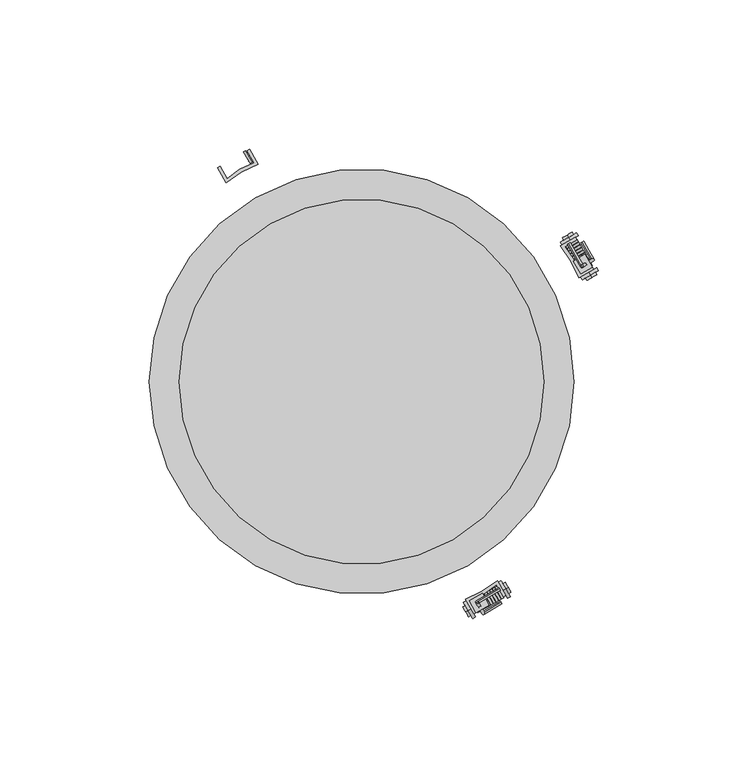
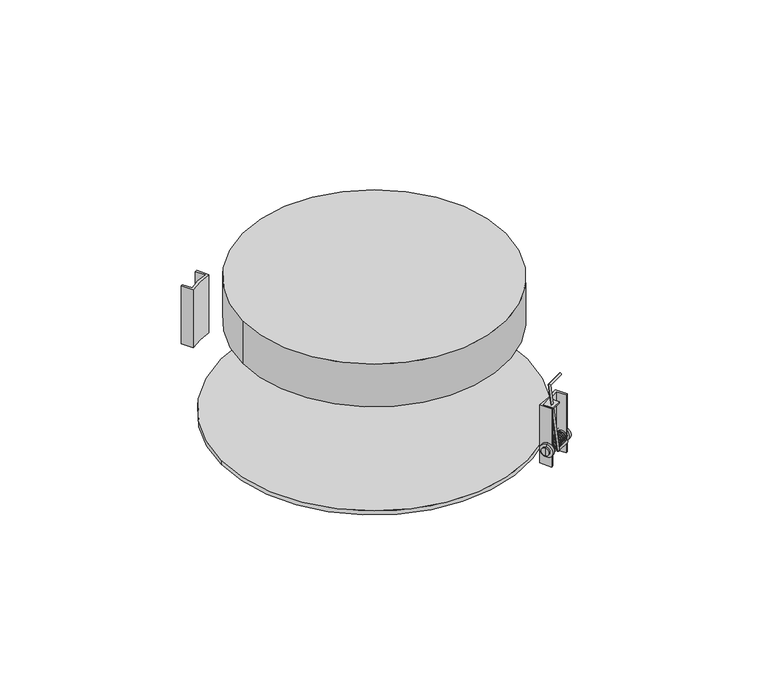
"""IFC4 building model written with IfcOpenShell, lengths in millimetres: proxy geometry, 230208 BIM Data_CSE 56T VA : CSE 56T VA."""

from ifc_helpers import new_model, si_unit, point, frame, frame_2d, origin, origin_2d, place, context, project, spatial, polyline, circle_curve, ellipse_curve, trimmed, segment, composite_curve, outline, extrude, source, transform, mapped, element, save
from ifc_brep_helpers import plane_surface, cylinder_surface, advanced_brep


def communication_devices_ea9a3868(model_context):
    return source(origin(), model_context, "Body", "SolidModel", [
        extrude(outline(composite_curve([segment(trimmed(circle_curve(frame_2d((0.0, -2.2114931)), 2.2114931), [point((0.0, -4.4229861))], [point((0.0, 0.0))], False, "CARTESIAN"), True, "CONTINUOUS"), segment(trimmed(circle_curve(frame_2d((0.0, -2.2114931)), 2.2114931), [point((0.0, 0.0))], [point((0.0, -4.4229861))], False, "CARTESIAN"), True, "CONTINUOUS")], self_intersect=False), holes=[composite_curve([segment(trimmed(circle_curve(frame_2d((0.0, -2.2114931)), 1.6197878), [point((0.0, -3.8312809))], [point((0.0, -0.5917053))], True, "CARTESIAN"), True, "CONTINUOUS"), segment(trimmed(circle_curve(frame_2d((0.0, -2.2114931)), 1.6197878), [point((0.0, -0.5917053))], [point((0.0, -3.8312809))], True, "CARTESIAN"), True, "CONTINUOUS")], self_intersect=False)]), frame((-37.3178935, 73.0329168, 13.8879558), z_axis=(0.866025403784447, 0.4999999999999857, 0.0), x_axis=(0.0, 0.0, 1.0)), (0.0, 0.0, 1.0), 0.7554192),
        extrude(outline(composite_curve([segment(trimmed(circle_curve(frame_2d((0.0, -2.2114931)), 2.2114931), [point((0.0, -4.4229861))], [point((0.0, 0.0))], False, "CARTESIAN"), True, "CONTINUOUS"), segment(trimmed(circle_curve(frame_2d((0.0, -2.2114931)), 2.2114931), [point((0.0, 0.0))], [point((0.0, -4.4229861))], False, "CARTESIAN"), True, "CONTINUOUS")], self_intersect=False), holes=[composite_curve([segment(trimmed(circle_curve(frame_2d((0.0, -2.2114931)), 1.6197878), [point((0.0, -3.8312809))], [point((0.0, -0.5917053))], True, "CARTESIAN"), True, "CONTINUOUS"), segment(trimmed(circle_curve(frame_2d((0.0, -2.2114931)), 1.6197878), [point((0.0, -0.5917053))], [point((0.0, -3.8312809))], True, "CARTESIAN"), True, "CONTINUOUS")], self_intersect=False)]), frame((-37.3178935, 73.0329168, 13.8879558), z_axis=(0.866025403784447, 0.4999999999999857, 0.0), x_axis=(0.0, 0.0, 1.0)), (0.0, 0.0, 1.0), 0.7554192),
        extrude(outline(composite_curve([segment(trimmed(circle_curve(frame_2d((-19.0625, 33.28125)), 42.496521), [point((-34.7465932, 72.7776235))], [point((-45.4253162, 66.6122599))], True, "CARTESIAN"), True, "CONTINUOUS"), segment(polyline([(-45.4253162, 66.6122599), (-48.2690092, 71.5376808), (-47.4415997, 72.0153859), (-45.1088342, 67.9749175)]), True, "CONTINUOUS"), segment(trimmed(circle_curve(frame_2d((-27.9989402, 48.7128243)), 25.7638644), [point((-45.1088342, 67.9749175))], [point((-35.9830153, 73.2083596))], False, "CARTESIAN"), True, "CONTINUOUS"), segment(polyline([(-35.9830153, 73.2083596), (-38.3310886, 77.2753419), (-37.5902863, 77.7030443), (-34.7465932, 72.7776235)]), True, "CONTINUOUS")], self_intersect=False)), frame((0.0, 0.0, 5.7345004), z_axis=(0.0, 0.0, 1.0), x_axis=(1.0, 0.0, 0.0)), (0.0, 0.0, 1.0), 28.5085083),
        extrude(outline(polyline([(42.6612156, -74.7753419), (38.3310886, -77.2753419), (36.0486014, -73.3219581), (40.3787284, -70.8219581), (42.6612156, -74.7753419)])), frame((0.0, 0.0, 33.4827769), z_axis=(0.0, 0.0, 1.0), x_axis=(1.0, 0.0, 0.0)), (0.0, 0.0, 1.0), 0.7602318),
        advanced_brep(
        [(46.1831034, -69.3327417, 43.8165144), (46.2510379, -69.4504076, 42.8257876), (39.1318727, -73.5606596, 42.8257876), (38.1979129, -73.9429936, 43.8165144), (40.3487085, -77.6682809, 12.4502375), (41.1467994, -77.050615, 13.4409643), (46.7434081, -73.9762993, 12.4502375), (46.6754737, -73.8586334, 13.4409643)],
        [
            (0, 1, circle_curve(frame((46.2170707, -69.3915747, 43.321151), z_axis=(0.866025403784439, 0.49999999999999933, 0.0), x_axis=(0.06793445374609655, -0.1176659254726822, -0.9907268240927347)), 0.5)),
            (1, 0, circle_curve(frame((46.2170707, -69.3915747, 43.321151), z_axis=(0.866025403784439, 0.49999999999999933, 0.0), x_axis=(0.06793445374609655, -0.1176659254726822, -0.9907268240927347)), 0.5)),
            (2, 3, ellipse_curve(frame((38.6648928, -73.7518266, 43.321151), z_axis=(-0.5643355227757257, -0.4367557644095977, -0.7005496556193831), x_axis=(-0.6604093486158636, -0.2703510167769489, 0.7005496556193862)), 0.7071068, 0.5)),
            (3, 4),
            (4, 5, ellipse_curve(frame((40.747754, -77.3594479, 12.9456009), z_axis=(-0.6604093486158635, -0.2703510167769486, 0.7005496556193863), x_axis=(0.5643355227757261, 0.4367557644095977, 0.7005496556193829)), 0.7071068, 0.5)),
            (5, 2),
            (3, 2, ellipse_curve(frame((38.6648928, -73.7518266, 43.321151), z_axis=(-0.5643355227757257, -0.4367557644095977, -0.7005496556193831), x_axis=(-0.6604093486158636, -0.2703510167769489, 0.7005496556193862)), 0.7071068, 0.5)),
            (5, 4, ellipse_curve(frame((40.747754, -77.3594479, 12.9456009), z_axis=(-0.6604093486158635, -0.2703510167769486, 0.7005496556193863), x_axis=(0.5643355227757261, 0.4367557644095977, 0.7005496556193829)), 0.7071068, 0.5)),
            (6, 7, circle_curve(frame((46.7094409, -73.9174664, 12.9456009), z_axis=(0.8660254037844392, 0.49999999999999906, 0.0), x_axis=(-0.06793445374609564, 0.11766592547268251, 0.9907268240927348)), 0.5)),
            (7, 6, circle_curve(frame((46.7094409, -73.9174664, 12.9456009), z_axis=(0.8660254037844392, 0.49999999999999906, 0.0), x_axis=(-0.06793445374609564, 0.11766592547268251, 0.9907268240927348)), 0.5)),
            (4, 6),
            (7, 5),
            (0, 3),
            (2, 1),
        ],
        [
            plane_surface(frame((23.9773656, -30.8712757, 36.0923621), z_axis=(0.8660254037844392, 0.4999999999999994, 0.0), x_axis=(0.4953634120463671, -0.8579945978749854, 0.13586890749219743))),
            cylinder_surface(frame((38.7408698, -73.8834225, 42.2131358), z_axis=(-0.06793445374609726, 0.11766592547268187, 0.9907268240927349), x_axis=(0.8660254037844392, 0.49999999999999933, 0.0)), 0.5),
            plane_surface(frame((24.317782, -35.1339754, 7.9328424), z_axis=(0.8660254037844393, 0.4999999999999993, 0.0), x_axis=(0.4953634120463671, -0.8579945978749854, 0.1358689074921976))),
            cylinder_surface(frame((41.7163048, -76.8002548, 12.9456009), z_axis=(-0.8660254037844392, -0.49999999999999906, 0.0), x_axis=(-0.06793445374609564, 0.11766592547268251, 0.9907268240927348)), 0.5),
            cylinder_surface(frame((46.2170707, -69.3915747, 43.321151), z_axis=(0.866025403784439, 0.49999999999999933, 0.0), x_axis=(0.06793445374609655, -0.1176659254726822, -0.9907268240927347)), 0.5),
        ],
        [
            (0, [[1, 2]]),
            (1, [[3, 4, 5, 6]]),
            (1, [[7, -6, 8, -4]]),
            (2, [[9, 10]]),
            (3, [[-5, 11, -10, 12]]),
            (3, [[-8, -12, -9, -11]]),
            (4, [[-1, 13, -3, 14]]),
            (4, [[-2, -14, -7, -13]]),
        ],
    ),
        advanced_brep(
        [(35.6613388, -76.56154, 10.6517111), (35.6613388, -76.56154, 16.869995), (36.6137635, -76.0116573, 16.869995), (36.6137635, -76.0116573, 10.6517111), (35.6613388, -76.56154, 11.8431266), (35.6613388, -76.56154, 15.6785795), (34.8423143, -77.034404, 11.8431266), (34.8423143, -77.034404, 15.6785795), (34.8423143, -77.034404, 13.760853), (49.0639357, -68.823547, 11.8431266), (49.0639357, -68.823547, 15.6785795), (49.0639357, -68.823547, 13.760853), (48.2449112, -69.2964111, 11.8431266), (48.2449112, -69.2964111, 15.6785795), (48.2449112, -69.2964111, 10.6517111), (48.2449112, -69.2964111, 16.869995), (47.2924865, -69.8462937, 10.6517111), (47.2924865, -69.8462937, 16.869995), (47.2924865, -69.8462937, 12.8676654), (47.2924865, -69.8462937, 14.6540407), (36.6137635, -76.0116573, 12.8676654), (36.6137635, -76.0116573, 14.6540407)],
        [
            (0, 1, circle_curve(frame((35.6613388, -76.56154, 13.760853), z_axis=(0.866025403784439, 0.4999999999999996, 0.0), x_axis=(0.0, 0.0, 1.0000000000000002)), 3.109142)),
            (1, 2),
            (2, 3, circle_curve(frame((36.6137635, -76.0116573, 13.760853), z_axis=(-0.866025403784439, -0.4999999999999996, 0.0), x_axis=(0.0, 0.0, 1.0000000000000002)), 3.109142)),
            (3, 0),
            (1, 0, circle_curve(frame((35.6613388, -76.56154, 13.760853), z_axis=(0.866025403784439, 0.4999999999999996, 0.0), x_axis=(0.0, 0.0, 1.0000000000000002)), 3.109142)),
            (3, 2, circle_curve(frame((36.6137635, -76.0116573, 13.760853), z_axis=(-0.866025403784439, -0.4999999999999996, 0.0), x_axis=(0.0, 0.0, 1.0000000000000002)), 3.109142)),
            (4, 5, circle_curve(frame((35.6613388, -76.56154, 13.760853), z_axis=(0.866025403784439, 0.4999999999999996, 0.0), x_axis=(0.0, 0.0, 1.0000000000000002)), 1.9177265)),
            (5, 1),
            (0, 4),
            (5, 4, circle_curve(frame((35.6613388, -76.56154, 13.760853), z_axis=(0.866025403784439, 0.4999999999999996, 0.0), x_axis=(0.0, 0.0, 1.0000000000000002)), 1.9177265)),
            (6, 7, circle_curve(frame((34.8423143, -77.034404, 13.760853), z_axis=(0.866025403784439, 0.4999999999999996, 0.0), x_axis=(0.0, 0.0, 1.0000000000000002)), 1.9177265)),
            (7, 5),
            (4, 6),
            (7, 6, circle_curve(frame((34.8423143, -77.034404, 13.760853), z_axis=(0.866025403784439, 0.4999999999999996, 0.0), x_axis=(0.0, 0.0, 1.0000000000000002)), 1.9177265)),
            (8, 7),
            (6, 8),
            (9, 10, circle_curve(frame((49.0639357, -68.823547, 13.760853), z_axis=(0.866025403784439, 0.4999999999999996, 0.0), x_axis=(0.0, 0.0, 1.0000000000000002)), 1.9177265)),
            (10, 11),
            (11, 9),
            (10, 9, circle_curve(frame((49.0639357, -68.823547, 13.760853), z_axis=(0.866025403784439, 0.4999999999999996, 0.0), x_axis=(0.0, 0.0, 1.0000000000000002)), 1.9177265)),
            (12, 13, circle_curve(frame((48.2449112, -69.2964111, 13.760853), z_axis=(0.866025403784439, 0.4999999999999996, 0.0), x_axis=(0.0, 0.0, 1.0000000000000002)), 1.9177265)),
            (13, 10),
            (9, 12),
            (13, 12, circle_curve(frame((48.2449112, -69.2964111, 13.760853), z_axis=(0.866025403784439, 0.4999999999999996, 0.0), x_axis=(0.0, 0.0, 1.0000000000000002)), 1.9177265)),
            (14, 15, circle_curve(frame((48.2449112, -69.2964111, 13.760853), z_axis=(0.866025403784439, 0.4999999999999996, 0.0), x_axis=(0.0, 0.0, 1.0000000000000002)), 3.109142)),
            (15, 13),
            (12, 14),
            (15, 14, circle_curve(frame((48.2449112, -69.2964111, 13.760853), z_axis=(0.866025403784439, 0.4999999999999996, 0.0), x_axis=(0.0, 0.0, 1.0000000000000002)), 3.109142)),
            (16, 17, circle_curve(frame((47.2924865, -69.8462937, 13.760853), z_axis=(0.866025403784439, 0.4999999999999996, 0.0), x_axis=(0.0, 0.0, 1.0000000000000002)), 3.109142)),
            (17, 15),
            (14, 16),
            (17, 16, circle_curve(frame((47.2924865, -69.8462937, 13.760853), z_axis=(0.866025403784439, 0.4999999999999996, 0.0), x_axis=(0.0, 0.0, 1.0000000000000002)), 3.109142)),
            (18, 19, circle_curve(frame((47.2924865, -69.8462937, 13.760853), z_axis=(0.866025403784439, 0.4999999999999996, 0.0), x_axis=(0.0, 0.0, 1.0000000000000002)), 0.8931877)),
            (19, 17),
            (16, 18),
            (19, 18, circle_curve(frame((47.2924865, -69.8462937, 13.760853), z_axis=(0.866025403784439, 0.4999999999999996, 0.0), x_axis=(0.0, 0.0, 1.0000000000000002)), 0.8931877)),
            (20, 21, circle_curve(frame((36.6137635, -76.0116573, 13.760853), z_axis=(0.866025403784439, 0.4999999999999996, 0.0), x_axis=(0.0, 0.0, 1.0000000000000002)), 0.8931877)),
            (21, 19),
            (18, 20),
            (21, 20, circle_curve(frame((36.6137635, -76.0116573, 13.760853), z_axis=(0.866025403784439, 0.4999999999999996, 0.0), x_axis=(0.0, 0.0, 1.0000000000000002)), 0.8931877)),
            (2, 21),
            (20, 3),
        ],
        [
            cylinder_surface(frame((41.3466032, -73.279151, 13.760853), z_axis=(-0.866025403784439, -0.4999999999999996, 0.0), x_axis=(0.0, 0.0, 1.0000000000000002)), 3.109142),
            plane_surface(frame((35.6613388, -76.56154, 13.760853), z_axis=(-0.866025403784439, -0.4999999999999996, 0.0), x_axis=(0.0, 0.0, 1.0))),
            cylinder_surface(frame((41.3466032, -73.279151, 13.760853), z_axis=(-0.866025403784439, -0.4999999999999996, 0.0), x_axis=(0.0, 0.0, 1.0000000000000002)), 1.9177265),
            plane_surface(frame((34.8423143, -77.034404, 13.760853), z_axis=(-0.866025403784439, -0.4999999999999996, 0.0), x_axis=(0.0, 0.0, 1.0))),
            plane_surface(frame((49.0639357, -68.823547, 13.760853), z_axis=(0.866025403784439, 0.4999999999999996, 0.0), x_axis=(0.0, 0.0, 1.0))),
            plane_surface(frame((48.2449112, -69.2964111, 13.760853), z_axis=(0.866025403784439, 0.4999999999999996, 0.0), x_axis=(0.0, 0.0, 1.0))),
            plane_surface(frame((47.2924865, -69.8462937, 13.760853), z_axis=(-0.866025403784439, -0.4999999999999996, 0.0), x_axis=(0.0, 0.0, 1.0))),
            cylinder_surface(frame((41.3466032, -73.279151, 13.760853), z_axis=(-0.866025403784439, -0.4999999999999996, 0.0), x_axis=(0.0, 0.0, 1.0000000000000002)), 0.8931877),
            plane_surface(frame((36.6137635, -76.0116573, 13.760853), z_axis=(0.866025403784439, 0.4999999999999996, 0.0), x_axis=(0.0, 0.0, 1.0))),
        ],
        [
            (0, [[1, 2, 3, 4]]),
            (0, [[5, -4, 6, -2]]),
            (1, [[7, 8, -1, 9]]),
            (1, [[10, -9, -5, -8]]),
            (2, [[11, 12, -7, 13]]),
            (2, [[14, -13, -10, -12]]),
            (3, [[15, -11, 16]]),
            (3, [[-16, -14, -15]]),
            (4, [[17, 18, 19]]),
            (4, [[20, -19, -18]]),
            (2, [[21, 22, -17, 23]]),
            (2, [[24, -23, -20, -22]]),
            (5, [[25, 26, -21, 27]]),
            (5, [[28, -27, -24, -26]]),
            (0, [[29, 30, -25, 31]]),
            (0, [[32, -31, -28, -30]]),
            (6, [[33, 34, -29, 35]]),
            (6, [[36, -35, -32, -34]]),
            (7, [[37, 38, -33, 39]]),
            (7, [[40, -39, -36, -38]]),
            (8, [[-3, 41, -37, 42]]),
            (8, [[-6, -42, -40, -41]]),
        ],
    ),
        extrude(outline(composite_curve([segment(trimmed(circle_curve(frame_2d((0.0, -2.2114931)), 2.2114931), [point((0.0, -4.4229862))], [point((0.0, 0.0))], False, "CARTESIAN"), True, "CONTINUOUS"), segment(trimmed(circle_curve(frame_2d((0.0, -2.2114931)), 2.2114931), [point((0.0, 0.0))], [point((0.0, -4.4229862))], False, "CARTESIAN"), True, "CONTINUOUS")], self_intersect=False), holes=[composite_curve([segment(trimmed(circle_curve(frame_2d((0.0, -2.2114931)), 1.6197878), [point((0.0, -3.8312809))], [point((0.0, -0.5917053))], True, "CARTESIAN"), True, "CONTINUOUS"), segment(trimmed(circle_curve(frame_2d((0.0, -2.2114931)), 1.6197878), [point((0.0, -0.5917053))], [point((0.0, -3.8312809))], True, "CARTESIAN"), True, "CONTINUOUS")], self_intersect=False)]), frame((44.6942058, -68.7742009, 13.8879558), z_axis=(0.866025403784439, 0.4999999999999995, 0.0), x_axis=(0.0, 0.0, -1.0)), (0.0, 0.0, 1.0), 0.7554192),
        extrude(outline(composite_curve([segment(trimmed(circle_curve(frame_2d((0.0, -2.2114931)), 2.2114931), [point((0.0, -4.4229861))], [point((0.0, 0.0))], False, "CARTESIAN"), True, "CONTINUOUS"), segment(trimmed(circle_curve(frame_2d((0.0, -2.2114931)), 2.2114931), [point((0.0, 0.0))], [point((0.0, -4.4229861))], False, "CARTESIAN"), True, "CONTINUOUS")], self_intersect=False), holes=[composite_curve([segment(trimmed(circle_curve(frame_2d((0.0, -2.2114931)), 1.6197878), [point((0.0, -3.8312809))], [point((0.0, -0.5917052))], True, "CARTESIAN"), True, "CONTINUOUS"), segment(trimmed(circle_curve(frame_2d((0.0, -2.2114931)), 1.6197878), [point((0.0, -0.5917052))], [point((0.0, -3.8312809))], True, "CARTESIAN"), True, "CONTINUOUS")], self_intersect=False)]), frame((43.8019253, -69.2893593, 13.8879558), z_axis=(0.866025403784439, 0.4999999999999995, 0.0), x_axis=(0.0, 0.0, -1.0)), (0.0, 0.0, 1.0), 0.7554192),
        extrude(outline(composite_curve([segment(trimmed(circle_curve(frame_2d((0.0, -2.2114931)), 2.2114931), [point((0.0, -4.4229861))], [point((0.0, 0.0))], False, "CARTESIAN"), True, "CONTINUOUS"), segment(trimmed(circle_curve(frame_2d((0.0, -2.2114931)), 2.2114931), [point((0.0, 0.0))], [point((0.0, -4.4229861))], False, "CARTESIAN"), True, "CONTINUOUS")], self_intersect=False), holes=[composite_curve([segment(trimmed(circle_curve(frame_2d((0.0, -2.2114931)), 1.6197878), [point((0.0, -3.8312809))], [point((0.0, -0.5917052))], True, "CARTESIAN"), True, "CONTINUOUS"), segment(trimmed(circle_curve(frame_2d((0.0, -2.2114931)), 1.6197878), [point((0.0, -0.5917052))], [point((0.0, -3.8312809))], True, "CARTESIAN"), True, "CONTINUOUS")], self_intersect=False)]), frame((42.9096448, -69.8045177, 13.8879558), z_axis=(0.866025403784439, 0.4999999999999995, 0.0), x_axis=(0.0, 0.0, -1.0)), (0.0, 0.0, 1.0), 0.7554192),
        extrude(outline(composite_curve([segment(trimmed(circle_curve(frame_2d((0.0, -2.2114931)), 2.2114931), [point((0.0, -4.4229861))], [point((0.0, 0.0))], False, "CARTESIAN"), True, "CONTINUOUS"), segment(trimmed(circle_curve(frame_2d((0.0, -2.2114931)), 2.2114931), [point((0.0, 0.0))], [point((0.0, -4.4229861))], False, "CARTESIAN"), True, "CONTINUOUS")], self_intersect=False), holes=[composite_curve([segment(trimmed(circle_curve(frame_2d((0.0, -2.2114931)), 1.6197878), [point((0.0, -3.8312809))], [point((0.0, -0.5917052))], True, "CARTESIAN"), True, "CONTINUOUS"), segment(trimmed(circle_curve(frame_2d((0.0, -2.2114931)), 1.6197878), [point((0.0, -0.5917052))], [point((0.0, -3.8312809))], True, "CARTESIAN"), True, "CONTINUOUS")], self_intersect=False)]), frame((42.0173643, -70.3196761, 13.8879558), z_axis=(0.866025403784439, 0.4999999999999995, 0.0), x_axis=(0.0, 0.0, -1.0)), (0.0, 0.0, 1.0), 0.7554192),
        extrude(outline(composite_curve([segment(trimmed(circle_curve(frame_2d((0.0, -2.211493)), 2.2114931), [point((0.0, -4.4229861))], [point((0.0, 0.0))], False, "CARTESIAN"), True, "CONTINUOUS"), segment(trimmed(circle_curve(frame_2d((0.0, -2.211493)), 2.2114931), [point((0.0, 0.0))], [point((0.0, -4.4229861))], False, "CARTESIAN"), True, "CONTINUOUS")], self_intersect=False), holes=[composite_curve([segment(trimmed(circle_curve(frame_2d((0.0, -2.211493)), 1.6197878), [point((0.0, -3.8312809))], [point((0.0, -0.5917052))], True, "CARTESIAN"), True, "CONTINUOUS"), segment(trimmed(circle_curve(frame_2d((0.0, -2.211493)), 1.6197878), [point((0.0, -0.5917052))], [point((0.0, -3.8312809))], True, "CARTESIAN"), True, "CONTINUOUS")], self_intersect=False)]), frame((41.1250838, -70.8348345, 13.8879558), z_axis=(0.866025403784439, 0.4999999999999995, 0.0), x_axis=(0.0, 0.0, -1.0)), (0.0, 0.0, 1.0), 0.7554192),
        extrude(outline(composite_curve([segment(trimmed(circle_curve(frame_2d((0.0, -2.211493)), 2.2114931), [point((0.0, -4.4229861))], [point((0.0, 0.0))], False, "CARTESIAN"), True, "CONTINUOUS"), segment(trimmed(circle_curve(frame_2d((0.0, -2.211493)), 2.2114931), [point((0.0, 0.0))], [point((0.0, -4.4229861))], False, "CARTESIAN"), True, "CONTINUOUS")], self_intersect=False), holes=[composite_curve([segment(trimmed(circle_curve(frame_2d((0.0, -2.211493)), 1.6197878), [point((0.0, -3.8312809))], [point((0.0, -0.5917052))], True, "CARTESIAN"), True, "CONTINUOUS"), segment(trimmed(circle_curve(frame_2d((0.0, -2.211493)), 1.6197878), [point((0.0, -0.5917052))], [point((0.0, -3.8312809))], True, "CARTESIAN"), True, "CONTINUOUS")], self_intersect=False)]), frame((40.2328033, -71.3499929, 13.8879558), z_axis=(0.866025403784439, 0.4999999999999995, 0.0), x_axis=(0.0, 0.0, -1.0)), (0.0, 0.0, 1.0), 0.7554192),
        extrude(outline(composite_curve([segment(trimmed(circle_curve(frame_2d((0.0, -2.2114931)), 2.2114931), [point((0.0, -4.4229862))], [point((0.0, 0.0))], False, "CARTESIAN"), True, "CONTINUOUS"), segment(trimmed(circle_curve(frame_2d((0.0, -2.2114931)), 2.2114931), [point((0.0, 0.0))], [point((0.0, -4.4229862))], False, "CARTESIAN"), True, "CONTINUOUS")], self_intersect=False), holes=[composite_curve([segment(trimmed(circle_curve(frame_2d((0.0, -2.2114931)), 1.6197878), [point((0.0, -3.8312809))], [point((0.0, -0.5917053))], True, "CARTESIAN"), True, "CONTINUOUS"), segment(trimmed(circle_curve(frame_2d((0.0, -2.2114931)), 1.6197878), [point((0.0, -0.5917053))], [point((0.0, -3.8312809))], True, "CARTESIAN"), True, "CONTINUOUS")], self_intersect=False)]), frame((39.3405227, -71.8651512, 13.8879558), z_axis=(0.866025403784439, 0.4999999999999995, 0.0), x_axis=(0.0, 0.0, -1.0)), (0.0, 0.0, 1.0), 0.7554192),
        extrude(outline(composite_curve([segment(trimmed(circle_curve(frame_2d((0.0, -2.2114931)), 2.2114931), [point((0.0, -4.4229862))], [point((0.0, 0.0))], False, "CARTESIAN"), True, "CONTINUOUS"), segment(trimmed(circle_curve(frame_2d((0.0, -2.2114931)), 2.2114931), [point((0.0, 0.0))], [point((0.0, -4.4229862))], False, "CARTESIAN"), True, "CONTINUOUS")], self_intersect=False), holes=[composite_curve([segment(trimmed(circle_curve(frame_2d((0.0, -2.2114931)), 1.6197878), [point((0.0, -3.8312809))], [point((0.0, -0.5917053))], True, "CARTESIAN"), True, "CONTINUOUS"), segment(trimmed(circle_curve(frame_2d((0.0, -2.2114931)), 1.6197878), [point((0.0, -0.5917053))], [point((0.0, -3.8312809))], True, "CARTESIAN"), True, "CONTINUOUS")], self_intersect=False)]), frame((38.4482422, -72.3803096, 13.8879558), z_axis=(0.866025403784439, 0.4999999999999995, 0.0), x_axis=(0.0, 0.0, -1.0)), (0.0, 0.0, 1.0), 0.7554192),
        extrude(outline(composite_curve([segment(trimmed(circle_curve(frame_2d((0.0, -2.2114931)), 2.2114931), [point((0.0, -4.4229862))], [point((0.0, 0.0))], False, "CARTESIAN"), True, "CONTINUOUS"), segment(trimmed(circle_curve(frame_2d((0.0, -2.2114931)), 2.2114931), [point((0.0, 0.0))], [point((0.0, -4.4229862))], False, "CARTESIAN"), True, "CONTINUOUS")], self_intersect=False), holes=[composite_curve([segment(trimmed(circle_curve(frame_2d((0.0, -2.2114931)), 1.6197878), [point((0.0, -3.8312809))], [point((0.0, -0.5917053))], True, "CARTESIAN"), True, "CONTINUOUS"), segment(trimmed(circle_curve(frame_2d((0.0, -2.2114931)), 1.6197878), [point((0.0, -0.5917053))], [point((0.0, -3.8312809))], True, "CARTESIAN"), True, "CONTINUOUS")], self_intersect=False)]), frame((37.5559617, -72.895468, 13.8879558), z_axis=(0.866025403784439, 0.4999999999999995, 0.0), x_axis=(0.0, 0.0, -1.0)), (0.0, 0.0, 1.0), 0.7554192),
        extrude(outline(composite_curve([segment(trimmed(circle_curve(frame_2d((0.0, -2.2114931)), 2.2114931), [point((0.0, -4.4229862))], [point((0.0, 0.0))], False, "CARTESIAN"), True, "CONTINUOUS"), segment(trimmed(circle_curve(frame_2d((0.0, -2.2114931)), 2.2114931), [point((0.0, 0.0))], [point((0.0, -4.4229862))], False, "CARTESIAN"), True, "CONTINUOUS")], self_intersect=False), holes=[composite_curve([segment(trimmed(circle_curve(frame_2d((0.0, -2.2114931)), 1.6197878), [point((0.0, -3.8312809))], [point((0.0, -0.5917053))], True, "CARTESIAN"), True, "CONTINUOUS"), segment(trimmed(circle_curve(frame_2d((0.0, -2.2114931)), 1.6197878), [point((0.0, -0.5917053))], [point((0.0, -3.8312809))], True, "CARTESIAN"), True, "CONTINUOUS")], self_intersect=False)]), frame((36.6636812, -73.4106264, 13.8879558), z_axis=(0.866025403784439, 0.4999999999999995, 0.0), x_axis=(0.0, 0.0, -1.0)), (0.0, 0.0, 1.0), 0.7554192),
        extrude(outline(composite_curve([segment(trimmed(circle_curve(frame_2d((0.0, -2.2114931)), 2.2114931), [point((0.0, -4.4229862))], [point((0.0, 0.0))], False, "CARTESIAN"), True, "CONTINUOUS"), segment(trimmed(circle_curve(frame_2d((0.0, -2.2114931)), 2.2114931), [point((0.0, 0.0))], [point((0.0, -4.4229862))], False, "CARTESIAN"), True, "CONTINUOUS")], self_intersect=False), holes=[composite_curve([segment(trimmed(circle_curve(frame_2d((0.0, -2.2114931)), 1.6197878), [point((0.0, -3.8312809))], [point((0.0, -0.5917053))], True, "CARTESIAN"), True, "CONTINUOUS"), segment(trimmed(circle_curve(frame_2d((0.0, -2.2114931)), 1.6197878), [point((0.0, -0.5917053))], [point((0.0, -3.8312809))], True, "CARTESIAN"), True, "CONTINUOUS")], self_intersect=False)]), frame((36.6636812, -73.4106264, 13.8879558), z_axis=(0.866025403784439, 0.4999999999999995, 0.0), x_axis=(0.0, 0.0, -1.0)), (0.0, 0.0, 1.0), 0.7554192),
        extrude(outline(composite_curve([segment(trimmed(circle_curve(frame_2d((19.0625, -33.28125)), 42.496521), [point((34.7465932, -72.7776235))], [point((45.4253162, -66.6122599))], True, "CARTESIAN"), True, "CONTINUOUS"), segment(polyline([(45.4253162, -66.6122599), (48.2690092, -71.5376808), (47.4415997, -72.0153859), (45.1088342, -67.9749175)]), True, "CONTINUOUS"), segment(trimmed(circle_curve(frame_2d((27.9989402, -48.7128243)), 25.7638644), [point((45.1088342, -67.9749175))], [point((35.9830153, -73.2083596))], False, "CARTESIAN"), True, "CONTINUOUS"), segment(polyline([(35.9830153, -73.2083596), (38.3310886, -77.2753419), (37.5902863, -77.7030443), (34.7465932, -72.7776235)]), True, "CONTINUOUS")], self_intersect=False)), frame((0.0, 0.0, 5.7345004), z_axis=(0.0, 0.0, 1.0), x_axis=(1.0, 0.0, 0.0)), (0.0, 0.0, 1.0), 28.5085083),
        extrude(outline(polyline([(74.7753419, 42.6612156), (77.2753419, 38.3310886), (73.3219581, 36.0486014), (70.8219581, 40.3787284), (74.7753419, 42.6612156)])), frame((0.0, 0.0, 33.4827769), z_axis=(0.0, 0.0, 1.0), x_axis=(1.0, 0.0, 0.0)), (0.0, 0.0, 1.0), 0.7602318),
        advanced_brep(
        [(69.3327417, 46.1831034, 43.8165144), (69.4504076, 46.2510379, 42.8257876), (73.5606596, 39.1318727, 42.8257876), (73.9429936, 38.1979129, 43.8165144), (77.6682809, 40.3487085, 12.4502375), (77.050615, 41.1467994, 13.4409643), (73.9762993, 46.7434081, 12.4502375), (73.8586334, 46.6754737, 13.4409643)],
        [
            (0, 1, circle_curve(frame((69.3915747, 46.2170707, 43.321151), z_axis=(-0.4999999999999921, 0.8660254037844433, 0.0), x_axis=(0.1176659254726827, 0.06793445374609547, -0.9907268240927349)), 0.5)),
            (1, 0, circle_curve(frame((69.3915747, 46.2170707, 43.321151), z_axis=(-0.4999999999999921, 0.8660254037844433, 0.0), x_axis=(0.1176659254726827, 0.06793445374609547, -0.9907268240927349)), 0.5)),
            (2, 3, ellipse_curve(frame((73.7518266, 38.6648928, 43.321151), z_axis=(0.4367557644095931, -0.5643355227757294, -0.700549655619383), x_axis=(0.2703510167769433, -0.6604093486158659, 0.7005496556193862)), 0.7071068, 0.5)),
            (3, 4),
            (4, 5, ellipse_curve(frame((77.3594479, 40.747754, 12.9456009), z_axis=(0.27035101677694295, -0.6604093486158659, 0.7005496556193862), x_axis=(-0.4367557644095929, 0.5643355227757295, 0.700549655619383)), 0.7071068, 0.5)),
            (5, 2),
            (3, 2, ellipse_curve(frame((73.7518266, 38.6648928, 43.321151), z_axis=(0.4367557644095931, -0.5643355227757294, -0.700549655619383), x_axis=(0.2703510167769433, -0.6604093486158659, 0.7005496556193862)), 0.7071068, 0.5)),
            (5, 4, ellipse_curve(frame((77.3594479, 40.747754, 12.9456009), z_axis=(0.27035101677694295, -0.6604093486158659, 0.7005496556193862), x_axis=(-0.4367557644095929, 0.5643355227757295, 0.700549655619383)), 0.7071068, 0.5)),
            (6, 7, circle_curve(frame((73.9174664, 46.7094409, 12.9456009), z_axis=(-0.49999999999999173, 0.8660254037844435, 0.0), x_axis=(-0.1176659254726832, -0.06793445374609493, 0.9907268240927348)), 0.5)),
            (7, 6, circle_curve(frame((73.9174664, 46.7094409, 12.9456009), z_axis=(-0.49999999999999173, 0.8660254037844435, 0.0), x_axis=(-0.1176659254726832, -0.06793445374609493, 0.9907268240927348)), 0.5)),
            (4, 6),
            (7, 5),
            (0, 3),
            (2, 1),
        ],
        [
            plane_surface(frame((30.8712757, 23.9773656, 36.0923621), z_axis=(-0.49999999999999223, 0.8660254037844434, 0.0), x_axis=(0.8579945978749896, 0.4953634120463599, 0.13586890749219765))),
            cylinder_surface(frame((73.8834225, 38.7408698, 42.2131358), z_axis=(-0.11766592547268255, -0.0679344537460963, 0.9907268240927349), x_axis=(-0.49999999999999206, 0.8660254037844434, 0.0)), 0.5),
            plane_surface(frame((35.1339754, 24.317782, 7.9328424), z_axis=(-0.499999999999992, 0.8660254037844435, 0.0), x_axis=(0.8579945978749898, 0.4953634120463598, 0.13586890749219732))),
            cylinder_surface(frame((76.8002548, 41.7163048, 12.9456009), z_axis=(0.49999999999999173, -0.8660254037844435, 0.0), x_axis=(-0.1176659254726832, -0.06793445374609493, 0.9907268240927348)), 0.5),
            cylinder_surface(frame((69.3915747, 46.2170707, 43.321151), z_axis=(-0.4999999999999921, 0.8660254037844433, 0.0), x_axis=(0.1176659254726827, 0.06793445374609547, -0.9907268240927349)), 0.5),
        ],
        [
            (0, [[1, 2]]),
            (1, [[3, 4, 5, 6]]),
            (1, [[7, -6, 8, -4]]),
            (2, [[9, 10]]),
            (3, [[-5, 11, -10, 12]]),
            (3, [[-8, -12, -9, -11]]),
            (4, [[-1, 13, -3, 14]]),
            (4, [[-2, -14, -7, -13]]),
        ],
    ),
        advanced_brep(
        [(76.56154, 35.6613388, 10.6517111), (76.56154, 35.6613388, 16.869995), (76.0116573, 36.6137635, 16.869995), (76.0116573, 36.6137635, 10.6517111), (76.56154, 35.6613388, 11.8431266), (76.56154, 35.6613388, 15.6785795), (77.034404, 34.8423143, 11.8431266), (77.034404, 34.8423143, 15.6785795), (77.034404, 34.8423143, 13.760853), (68.823547, 49.0639357, 11.8431266), (68.823547, 49.0639357, 15.6785795), (68.823547, 49.0639357, 13.760853), (69.2964111, 48.2449112, 11.8431266), (69.2964111, 48.2449112, 15.6785795), (69.2964111, 48.2449112, 10.6517111), (69.2964111, 48.2449112, 16.869995), (69.8462937, 47.2924865, 10.6517111), (69.8462937, 47.2924865, 16.869995), (69.8462937, 47.2924865, 12.8676654), (69.8462937, 47.2924865, 14.6540407), (76.0116573, 36.6137635, 12.8676654), (76.0116573, 36.6137635, 14.6540407)],
        [
            (0, 1, circle_curve(frame((76.56154, 35.6613388, 13.760853), z_axis=(-0.49999999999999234, 0.8660254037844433, 0.0), x_axis=(0.0, 0.0, 0.9999999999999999)), 3.109142)),
            (1, 2),
            (2, 3, circle_curve(frame((76.0116573, 36.6137635, 13.760853), z_axis=(0.49999999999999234, -0.8660254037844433, 0.0), x_axis=(0.0, 0.0, 0.9999999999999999)), 3.109142)),
            (3, 0),
            (1, 0, circle_curve(frame((76.56154, 35.6613388, 13.760853), z_axis=(-0.49999999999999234, 0.8660254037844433, 0.0), x_axis=(0.0, 0.0, 0.9999999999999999)), 3.109142)),
            (3, 2, circle_curve(frame((76.0116573, 36.6137635, 13.760853), z_axis=(0.49999999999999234, -0.8660254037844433, 0.0), x_axis=(0.0, 0.0, 0.9999999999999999)), 3.109142)),
            (4, 5, circle_curve(frame((76.56154, 35.6613388, 13.760853), z_axis=(-0.49999999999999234, 0.8660254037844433, 0.0), x_axis=(0.0, 0.0, 0.9999999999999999)), 1.9177265)),
            (5, 1),
            (0, 4),
            (5, 4, circle_curve(frame((76.56154, 35.6613388, 13.760853), z_axis=(-0.49999999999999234, 0.8660254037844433, 0.0), x_axis=(0.0, 0.0, 0.9999999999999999)), 1.9177265)),
            (6, 7, circle_curve(frame((77.034404, 34.8423143, 13.760853), z_axis=(-0.49999999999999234, 0.8660254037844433, 0.0), x_axis=(0.0, 0.0, 0.9999999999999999)), 1.9177265)),
            (7, 5),
            (4, 6),
            (7, 6, circle_curve(frame((77.034404, 34.8423143, 13.760853), z_axis=(-0.49999999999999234, 0.8660254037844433, 0.0), x_axis=(0.0, 0.0, 0.9999999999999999)), 1.9177265)),
            (8, 7),
            (6, 8),
            (9, 10, circle_curve(frame((68.823547, 49.0639357, 13.760853), z_axis=(-0.49999999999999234, 0.8660254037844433, 0.0), x_axis=(0.0, 0.0, 0.9999999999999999)), 1.9177265)),
            (10, 11),
            (11, 9),
            (10, 9, circle_curve(frame((68.823547, 49.0639357, 13.760853), z_axis=(-0.49999999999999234, 0.8660254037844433, 0.0), x_axis=(0.0, 0.0, 0.9999999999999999)), 1.9177265)),
            (12, 13, circle_curve(frame((69.2964111, 48.2449112, 13.760853), z_axis=(-0.49999999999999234, 0.8660254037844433, 0.0), x_axis=(0.0, 0.0, 0.9999999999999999)), 1.9177265)),
            (13, 10),
            (9, 12),
            (13, 12, circle_curve(frame((69.2964111, 48.2449112, 13.760853), z_axis=(-0.49999999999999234, 0.8660254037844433, 0.0), x_axis=(0.0, 0.0, 0.9999999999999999)), 1.9177265)),
            (14, 15, circle_curve(frame((69.2964111, 48.2449112, 13.760853), z_axis=(-0.49999999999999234, 0.8660254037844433, 0.0), x_axis=(0.0, 0.0, 0.9999999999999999)), 3.109142)),
            (15, 13),
            (12, 14),
            (15, 14, circle_curve(frame((69.2964111, 48.2449112, 13.760853), z_axis=(-0.49999999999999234, 0.8660254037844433, 0.0), x_axis=(0.0, 0.0, 0.9999999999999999)), 3.109142)),
            (16, 17, circle_curve(frame((69.8462937, 47.2924865, 13.760853), z_axis=(-0.49999999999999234, 0.8660254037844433, 0.0), x_axis=(0.0, 0.0, 0.9999999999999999)), 3.109142)),
            (17, 15),
            (14, 16),
            (17, 16, circle_curve(frame((69.8462937, 47.2924865, 13.760853), z_axis=(-0.49999999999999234, 0.8660254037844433, 0.0), x_axis=(0.0, 0.0, 0.9999999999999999)), 3.109142)),
            (18, 19, circle_curve(frame((69.8462937, 47.2924865, 13.760853), z_axis=(-0.49999999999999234, 0.8660254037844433, 0.0), x_axis=(0.0, 0.0, 0.9999999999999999)), 0.8931877)),
            (19, 17),
            (16, 18),
            (19, 18, circle_curve(frame((69.8462937, 47.2924865, 13.760853), z_axis=(-0.49999999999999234, 0.8660254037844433, 0.0), x_axis=(0.0, 0.0, 0.9999999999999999)), 0.8931877)),
            (20, 21, circle_curve(frame((76.0116573, 36.6137635, 13.760853), z_axis=(-0.49999999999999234, 0.8660254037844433, 0.0), x_axis=(0.0, 0.0, 0.9999999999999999)), 0.8931877)),
            (21, 19),
            (18, 20),
            (21, 20, circle_curve(frame((76.0116573, 36.6137635, 13.760853), z_axis=(-0.49999999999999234, 0.8660254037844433, 0.0), x_axis=(0.0, 0.0, 0.9999999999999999)), 0.8931877)),
            (2, 21),
            (20, 3),
        ],
        [
            cylinder_surface(frame((73.279151, 41.3466032, 13.760853), z_axis=(0.49999999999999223, -0.866025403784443, 0.0), x_axis=(0.0, 0.0, 0.9999999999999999)), 3.109142),
            plane_surface(frame((76.56154, 35.6613388, 13.760853), z_axis=(0.4999999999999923, -0.8660254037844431, 0.0), x_axis=(0.0, 0.0, 1.0))),
            cylinder_surface(frame((73.279151, 41.3466032, 13.760853), z_axis=(0.49999999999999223, -0.866025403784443, 0.0), x_axis=(0.0, 0.0, 0.9999999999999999)), 1.9177265),
            plane_surface(frame((77.034404, 34.8423143, 13.760853), z_axis=(0.4999999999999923, -0.8660254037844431, 0.0), x_axis=(0.0, 0.0, 1.0))),
            plane_surface(frame((68.823547, 49.0639357, 13.760853), z_axis=(-0.4999999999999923, 0.8660254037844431, 0.0), x_axis=(0.0, 0.0, 1.0))),
            plane_surface(frame((69.2964111, 48.2449112, 13.760853), z_axis=(-0.4999999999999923, 0.8660254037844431, 0.0), x_axis=(0.0, 0.0, 1.0))),
            plane_surface(frame((69.8462937, 47.2924865, 13.760853), z_axis=(0.4999999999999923, -0.8660254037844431, 0.0), x_axis=(0.0, 0.0, 1.0))),
            cylinder_surface(frame((73.279151, 41.3466032, 13.760853), z_axis=(0.49999999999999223, -0.866025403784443, 0.0), x_axis=(0.0, 0.0, 0.9999999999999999)), 0.8931877),
            plane_surface(frame((76.0116573, 36.6137635, 13.760853), z_axis=(-0.4999999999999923, 0.8660254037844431, 0.0), x_axis=(0.0, 0.0, 1.0))),
        ],
        [
            (0, [[1, 2, 3, 4]]),
            (0, [[5, -4, 6, -2]]),
            (1, [[7, 8, -1, 9]]),
            (1, [[10, -9, -5, -8]]),
            (2, [[11, 12, -7, 13]]),
            (2, [[14, -13, -10, -12]]),
            (3, [[15, -11, 16]]),
            (3, [[-16, -14, -15]]),
            (4, [[17, 18, 19]]),
            (4, [[20, -19, -18]]),
            (2, [[21, 22, -17, 23]]),
            (2, [[24, -23, -20, -22]]),
            (5, [[25, 26, -21, 27]]),
            (5, [[28, -27, -24, -26]]),
            (0, [[29, 30, -25, 31]]),
            (0, [[32, -31, -28, -30]]),
            (6, [[33, 34, -29, 35]]),
            (6, [[36, -35, -32, -34]]),
            (7, [[37, 38, -33, 39]]),
            (7, [[40, -39, -36, -38]]),
            (8, [[-3, 41, -37, 42]]),
            (8, [[-6, -42, -40, -41]]),
        ],
    ),
        extrude(outline(composite_curve([segment(trimmed(circle_curve(frame_2d((0.0, -2.2114931)), 2.2114931), [point((0.0, -4.4229862))], [point((0.0, 0.0))], False, "CARTESIAN"), True, "CONTINUOUS"), segment(trimmed(circle_curve(frame_2d((0.0, -2.2114931)), 2.2114931), [point((0.0, 0.0))], [point((0.0, -4.4229862))], False, "CARTESIAN"), True, "CONTINUOUS")], self_intersect=False), holes=[composite_curve([segment(trimmed(circle_curve(frame_2d((0.0, -2.2114931)), 1.6197878), [point((0.0, -3.8312809))], [point((0.0, -0.5917053))], True, "CARTESIAN"), True, "CONTINUOUS"), segment(trimmed(circle_curve(frame_2d((0.0, -2.2114931)), 1.6197878), [point((0.0, -0.5917053))], [point((0.0, -3.8312809))], True, "CARTESIAN"), True, "CONTINUOUS")], self_intersect=False)]), frame((68.7742009, 44.6942058, 13.8879558), z_axis=(-0.4999999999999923, 0.8660254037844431, 0.0), x_axis=(0.0, 0.0, -1.0)), (0.0, 0.0, 1.0), 0.7554192),
        extrude(outline(composite_curve([segment(trimmed(circle_curve(frame_2d((0.0, -2.2114931)), 2.2114931), [point((0.0, -4.4229861))], [point((0.0, 0.0))], False, "CARTESIAN"), True, "CONTINUOUS"), segment(trimmed(circle_curve(frame_2d((0.0, -2.2114931)), 2.2114931), [point((0.0, 0.0))], [point((0.0, -4.4229861))], False, "CARTESIAN"), True, "CONTINUOUS")], self_intersect=False), holes=[composite_curve([segment(trimmed(circle_curve(frame_2d((0.0, -2.2114931)), 1.6197878), [point((0.0, -3.8312809))], [point((0.0, -0.5917052))], True, "CARTESIAN"), True, "CONTINUOUS"), segment(trimmed(circle_curve(frame_2d((0.0, -2.2114931)), 1.6197878), [point((0.0, -0.5917052))], [point((0.0, -3.8312809))], True, "CARTESIAN"), True, "CONTINUOUS")], self_intersect=False)]), frame((69.2893593, 43.8019253, 13.8879558), z_axis=(-0.4999999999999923, 0.8660254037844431, 0.0), x_axis=(0.0, 0.0, -1.0)), (0.0, 0.0, 1.0), 0.7554192),
        extrude(outline(composite_curve([segment(trimmed(circle_curve(frame_2d((0.0, -2.2114931)), 2.2114931), [point((0.0, -4.4229861))], [point((0.0, 0.0))], False, "CARTESIAN"), True, "CONTINUOUS"), segment(trimmed(circle_curve(frame_2d((0.0, -2.2114931)), 2.2114931), [point((0.0, 0.0))], [point((0.0, -4.4229861))], False, "CARTESIAN"), True, "CONTINUOUS")], self_intersect=False), holes=[composite_curve([segment(trimmed(circle_curve(frame_2d((0.0, -2.2114931)), 1.6197878), [point((0.0, -3.8312809))], [point((0.0, -0.5917052))], True, "CARTESIAN"), True, "CONTINUOUS"), segment(trimmed(circle_curve(frame_2d((0.0, -2.2114931)), 1.6197878), [point((0.0, -0.5917052))], [point((0.0, -3.8312809))], True, "CARTESIAN"), True, "CONTINUOUS")], self_intersect=False)]), frame((69.8045177, 42.9096448, 13.8879558), z_axis=(-0.4999999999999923, 0.8660254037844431, 0.0), x_axis=(0.0, 0.0, -1.0)), (0.0, 0.0, 1.0), 0.7554192),
        extrude(outline(composite_curve([segment(trimmed(circle_curve(frame_2d((0.0, -2.2114931)), 2.2114931), [point((0.0, -4.4229861))], [point((0.0, 0.0))], False, "CARTESIAN"), True, "CONTINUOUS"), segment(trimmed(circle_curve(frame_2d((0.0, -2.2114931)), 2.2114931), [point((0.0, 0.0))], [point((0.0, -4.4229861))], False, "CARTESIAN"), True, "CONTINUOUS")], self_intersect=False), holes=[composite_curve([segment(trimmed(circle_curve(frame_2d((0.0, -2.2114931)), 1.6197878), [point((0.0, -3.8312809))], [point((0.0, -0.5917052))], True, "CARTESIAN"), True, "CONTINUOUS"), segment(trimmed(circle_curve(frame_2d((0.0, -2.2114931)), 1.6197878), [point((0.0, -0.5917052))], [point((0.0, -3.8312809))], True, "CARTESIAN"), True, "CONTINUOUS")], self_intersect=False)]), frame((70.3196761, 42.0173643, 13.8879558), z_axis=(-0.4999999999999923, 0.8660254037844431, 0.0), x_axis=(0.0, 0.0, -1.0)), (0.0, 0.0, 1.0), 0.7554192),
        extrude(outline(composite_curve([segment(trimmed(circle_curve(frame_2d((0.0, -2.211493)), 2.2114931), [point((0.0, -4.4229861))], [point((0.0, 0.0))], False, "CARTESIAN"), True, "CONTINUOUS"), segment(trimmed(circle_curve(frame_2d((0.0, -2.211493)), 2.2114931), [point((0.0, 0.0))], [point((0.0, -4.4229861))], False, "CARTESIAN"), True, "CONTINUOUS")], self_intersect=False), holes=[composite_curve([segment(trimmed(circle_curve(frame_2d((0.0, -2.211493)), 1.6197878), [point((0.0, -3.8312809))], [point((0.0, -0.5917052))], True, "CARTESIAN"), True, "CONTINUOUS"), segment(trimmed(circle_curve(frame_2d((0.0, -2.211493)), 1.6197878), [point((0.0, -0.5917052))], [point((0.0, -3.8312809))], True, "CARTESIAN"), True, "CONTINUOUS")], self_intersect=False)]), frame((70.8348345, 41.1250838, 13.8879558), z_axis=(-0.4999999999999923, 0.8660254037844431, 0.0), x_axis=(0.0, 0.0, -1.0)), (0.0, 0.0, 1.0), 0.7554192),
        extrude(outline(composite_curve([segment(trimmed(circle_curve(frame_2d((0.0, -2.211493)), 2.2114931), [point((0.0, -4.4229861))], [point((0.0, 0.0))], False, "CARTESIAN"), True, "CONTINUOUS"), segment(trimmed(circle_curve(frame_2d((0.0, -2.211493)), 2.2114931), [point((0.0, 0.0))], [point((0.0, -4.4229861))], False, "CARTESIAN"), True, "CONTINUOUS")], self_intersect=False), holes=[composite_curve([segment(trimmed(circle_curve(frame_2d((0.0, -2.211493)), 1.6197878), [point((0.0, -3.8312809))], [point((0.0, -0.5917052))], True, "CARTESIAN"), True, "CONTINUOUS"), segment(trimmed(circle_curve(frame_2d((0.0, -2.211493)), 1.6197878), [point((0.0, -0.5917052))], [point((0.0, -3.8312809))], True, "CARTESIAN"), True, "CONTINUOUS")], self_intersect=False)]), frame((71.3499929, 40.2328033, 13.8879558), z_axis=(-0.4999999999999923, 0.8660254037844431, 0.0), x_axis=(0.0, 0.0, -1.0)), (0.0, 0.0, 1.0), 0.7554192),
        extrude(outline(composite_curve([segment(trimmed(circle_curve(frame_2d((0.0, -2.2114931)), 2.2114931), [point((0.0, -4.4229862))], [point((0.0, 0.0))], False, "CARTESIAN"), True, "CONTINUOUS"), segment(trimmed(circle_curve(frame_2d((0.0, -2.2114931)), 2.2114931), [point((0.0, 0.0))], [point((0.0, -4.4229862))], False, "CARTESIAN"), True, "CONTINUOUS")], self_intersect=False), holes=[composite_curve([segment(trimmed(circle_curve(frame_2d((0.0, -2.2114931)), 1.6197878), [point((0.0, -3.8312809))], [point((0.0, -0.5917053))], True, "CARTESIAN"), True, "CONTINUOUS"), segment(trimmed(circle_curve(frame_2d((0.0, -2.2114931)), 1.6197878), [point((0.0, -0.5917053))], [point((0.0, -3.8312809))], True, "CARTESIAN"), True, "CONTINUOUS")], self_intersect=False)]), frame((71.8651512, 39.3405227, 13.8879558), z_axis=(-0.4999999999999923, 0.8660254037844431, 0.0), x_axis=(0.0, 0.0, -1.0)), (0.0, 0.0, 1.0), 0.7554192),
        extrude(outline(composite_curve([segment(trimmed(circle_curve(frame_2d((0.0, -2.2114931)), 2.2114931), [point((0.0, -4.4229862))], [point((0.0, 0.0))], False, "CARTESIAN"), True, "CONTINUOUS"), segment(trimmed(circle_curve(frame_2d((0.0, -2.2114931)), 2.2114931), [point((0.0, 0.0))], [point((0.0, -4.4229862))], False, "CARTESIAN"), True, "CONTINUOUS")], self_intersect=False), holes=[composite_curve([segment(trimmed(circle_curve(frame_2d((0.0, -2.2114931)), 1.6197878), [point((0.0, -3.8312809))], [point((0.0, -0.5917053))], True, "CARTESIAN"), True, "CONTINUOUS"), segment(trimmed(circle_curve(frame_2d((0.0, -2.2114931)), 1.6197878), [point((0.0, -0.5917053))], [point((0.0, -3.8312809))], True, "CARTESIAN"), True, "CONTINUOUS")], self_intersect=False)]), frame((72.3803096, 38.4482422, 13.8879558), z_axis=(-0.4999999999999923, 0.8660254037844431, 0.0), x_axis=(0.0, 0.0, -1.0)), (0.0, 0.0, 1.0), 0.7554192),
        extrude(outline(composite_curve([segment(trimmed(circle_curve(frame_2d((0.0, -2.2114931)), 2.2114931), [point((0.0, -4.4229862))], [point((0.0, 0.0))], False, "CARTESIAN"), True, "CONTINUOUS"), segment(trimmed(circle_curve(frame_2d((0.0, -2.2114931)), 2.2114931), [point((0.0, 0.0))], [point((0.0, -4.4229862))], False, "CARTESIAN"), True, "CONTINUOUS")], self_intersect=False), holes=[composite_curve([segment(trimmed(circle_curve(frame_2d((0.0, -2.2114931)), 1.6197878), [point((0.0, -3.8312809))], [point((0.0, -0.5917053))], True, "CARTESIAN"), True, "CONTINUOUS"), segment(trimmed(circle_curve(frame_2d((0.0, -2.2114931)), 1.6197878), [point((0.0, -0.5917053))], [point((0.0, -3.8312809))], True, "CARTESIAN"), True, "CONTINUOUS")], self_intersect=False)]), frame((72.895468, 37.5559617, 13.8879558), z_axis=(-0.4999999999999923, 0.8660254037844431, 0.0), x_axis=(0.0, 0.0, -1.0)), (0.0, 0.0, 1.0), 0.7554192),
        extrude(outline(composite_curve([segment(trimmed(circle_curve(frame_2d((0.0, -2.2114931)), 2.2114931), [point((0.0, -4.4229862))], [point((0.0, 0.0))], False, "CARTESIAN"), True, "CONTINUOUS"), segment(trimmed(circle_curve(frame_2d((0.0, -2.2114931)), 2.2114931), [point((0.0, 0.0))], [point((0.0, -4.4229862))], False, "CARTESIAN"), True, "CONTINUOUS")], self_intersect=False), holes=[composite_curve([segment(trimmed(circle_curve(frame_2d((0.0, -2.2114931)), 1.6197878), [point((0.0, -3.8312809))], [point((0.0, -0.5917053))], True, "CARTESIAN"), True, "CONTINUOUS"), segment(trimmed(circle_curve(frame_2d((0.0, -2.2114931)), 1.6197878), [point((0.0, -0.5917053))], [point((0.0, -3.8312809))], True, "CARTESIAN"), True, "CONTINUOUS")], self_intersect=False)]), frame((73.4106264, 36.6636812, 13.8879558), z_axis=(-0.4999999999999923, 0.8660254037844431, 0.0), x_axis=(0.0, 0.0, -1.0)), (0.0, 0.0, 1.0), 0.7554192),
        extrude(outline(composite_curve([segment(trimmed(circle_curve(frame_2d((0.0, -2.2114931)), 2.2114931), [point((0.0, -4.4229862))], [point((0.0, 0.0))], False, "CARTESIAN"), True, "CONTINUOUS"), segment(trimmed(circle_curve(frame_2d((0.0, -2.2114931)), 2.2114931), [point((0.0, 0.0))], [point((0.0, -4.4229862))], False, "CARTESIAN"), True, "CONTINUOUS")], self_intersect=False), holes=[composite_curve([segment(trimmed(circle_curve(frame_2d((0.0, -2.2114931)), 1.6197878), [point((0.0, -3.8312809))], [point((0.0, -0.5917053))], True, "CARTESIAN"), True, "CONTINUOUS"), segment(trimmed(circle_curve(frame_2d((0.0, -2.2114931)), 1.6197878), [point((0.0, -0.5917053))], [point((0.0, -3.8312809))], True, "CARTESIAN"), True, "CONTINUOUS")], self_intersect=False)]), frame((73.4106264, 36.6636812, 13.8879558), z_axis=(-0.4999999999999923, 0.8660254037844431, 0.0), x_axis=(0.0, 0.0, -1.0)), (0.0, 0.0, 1.0), 0.7554192),
        extrude(outline(composite_curve([segment(trimmed(circle_curve(frame_2d((33.28125, 19.0625)), 42.496521), [point((72.7776235, 34.7465932))], [point((66.6122599, 45.4253162))], True, "CARTESIAN"), True, "CONTINUOUS"), segment(polyline([(66.6122599, 45.4253162), (71.5376808, 48.2690092), (72.0153859, 47.4415997), (67.9749175, 45.1088342)]), True, "CONTINUOUS"), segment(trimmed(circle_curve(frame_2d((48.7128243, 27.9989402)), 25.7638644), [point((67.9749175, 45.1088342))], [point((73.2083596, 35.9830153))], False, "CARTESIAN"), True, "CONTINUOUS"), segment(polyline([(73.2083596, 35.9830153), (77.2753419, 38.3310886), (77.7030443, 37.5902863), (72.7776235, 34.7465932)]), True, "CONTINUOUS")], self_intersect=False)), frame((0.0, 0.0, 5.7345004), z_axis=(0.0, 0.0, 1.0), x_axis=(1.0, 0.0, 0.0)), (0.0, 0.0, 1.0), 28.5085083),
        extrude(outline(composite_curve([segment(trimmed(circle_curve(origin_2d(), 71.0681254), [point((-71.0681254, 0.0))], [point((71.0681254, 0.0))], False, "CARTESIAN"), True, "CONTINUOUS"), segment(trimmed(circle_curve(origin_2d(), 71.0681254), [point((71.0681254, 0.0))], [point((-71.0681254, 0.0))], False, "CARTESIAN"), True, "CONTINUOUS")], self_intersect=False)), frame((0.0, 0.0, -2.018202), z_axis=(0.0, 0.0, 1.0), x_axis=(1.0, 0.0, 0.0)), (0.0, 0.0, 1.0), 2.018202),
        extrude(outline(composite_curve([segment(trimmed(circle_curve(origin_2d(), 61.0681254), [point((61.0681254, 0.0))], [point((-61.0681254, 0.0))], False, "CARTESIAN"), True, "CONTINUOUS"), segment(trimmed(circle_curve(origin_2d(), 61.0681254), [point((-61.0681254, 0.0))], [point((61.0681254, 0.0))], False, "CARTESIAN"), True, "CONTINUOUS")], self_intersect=False)), frame((0.0, 0.0, 44.0959145), z_axis=(0.0, 0.0, 1.0), x_axis=(1.0, 0.0, 0.0)), (0.0, 0.0, 1.0), 20.9040855),
    ])


if __name__ == "__main__":
    model = new_model("IFC4")
    model_context = context("Model", 3, world=origin())
    ifc_project = project(units=[si_unit("LENGTHUNIT", "METRE", prefix="MILLI")], contexts=[model_context])
    site = spatial("IfcSite", under=ifc_project)
    building = spatial("IfcBuilding", under=site)
    placement = place(None, origin())
    communication_devices_shape = communication_devices_ea9a3868(model_context)
    element("IfcBuildingElementProxy", 1, Name="230208 BIM Data_CSE 56T VA : CSE 56T VA", ObjectType="230208 BIM Data_CSE 56T VA : CSE 56T VA", at=placement, inside=building, context=model_context, shape_type="MappedRepresentation", body=[
        mapped(communication_devices_shape, transform((0.0, 0.0, 0.0), x_axis=(1.0, 0.0, 0.0), y_axis=(0.0, 1.0, 0.0), z_axis=(0.0, 0.0, 1.0))),
    ])
    save(model, "model.ifc")
